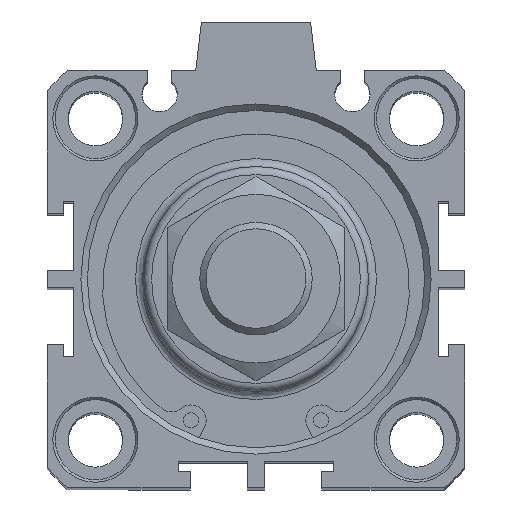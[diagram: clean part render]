
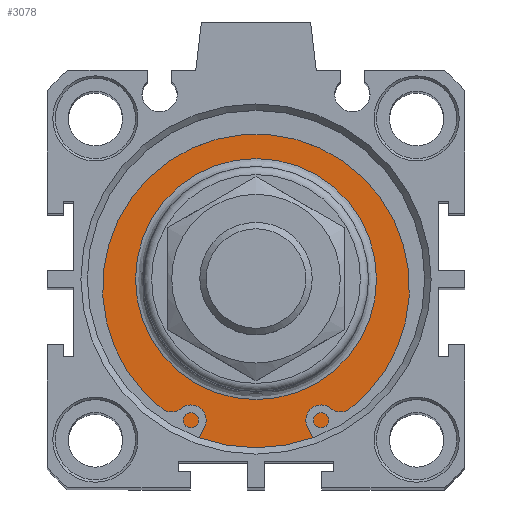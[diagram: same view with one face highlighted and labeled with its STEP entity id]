
A CAD part, top view. The second image highlights one B-rep face of the part: STEP entity #3078.
In plain terms, the highlighted planar face has unit normal (0, 0, 1).
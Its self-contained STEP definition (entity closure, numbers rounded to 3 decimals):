
#3027=CARTESIAN_POINT('',(-1.555,16.077,147.4));
#3028=VERTEX_POINT('',#3027);
#3029=CARTESIAN_POINT('',(-1.555,1.077,147.4));
#3030=DIRECTION('',(0.0,0.0,1.0));
#3031=DIRECTION('',(0.0,-1.0,0.0));
#3032=AXIS2_PLACEMENT_3D('',#3029,#3030,#3031);
#3033=CIRCLE('',#3032,15.);
#3034=EDGE_CURVE('',#3028,#3028,#3033,.T.);
#3059=CARTESIAN_POINT('',(-1.555,18.577,147.4));
#3060=DIRECTION('',(0.0,0.0,1.0));
#3061=DIRECTION('',(1.0,0.0,0.0));
#3062=AXIS2_PLACEMENT_3D('',#3059,#3060,#3061);
#3063=PLANE('',#3062);
#3064=CARTESIAN_POINT('',(-1.555,22.077,147.4));
#3065=VERTEX_POINT('',#3064);
#3066=CARTESIAN_POINT('',(-1.555,1.077,147.4));
#3067=DIRECTION('',(0.0,0.0,-1.0));
#3068=DIRECTION('',(0.0,1.0,0.0));
#3069=AXIS2_PLACEMENT_3D('',#3066,#3067,#3068);
#3070=CIRCLE('',#3069,21.);
#3071=EDGE_CURVE('',#3065,#3065,#3070,.T.);
#3072=ORIENTED_EDGE('',*,*,#3071,.F.);
#3073=EDGE_LOOP('',(#3072));
#3074=FACE_OUTER_BOUND('',#3073,.T.);
#3075=ORIENTED_EDGE('',*,*,#3034,.F.);
#3076=EDGE_LOOP('',(#3075));
#3077=FACE_BOUND('',#3076,.T.);
#3078=ADVANCED_FACE('',(#3074,#3077),#3063,.T.);
